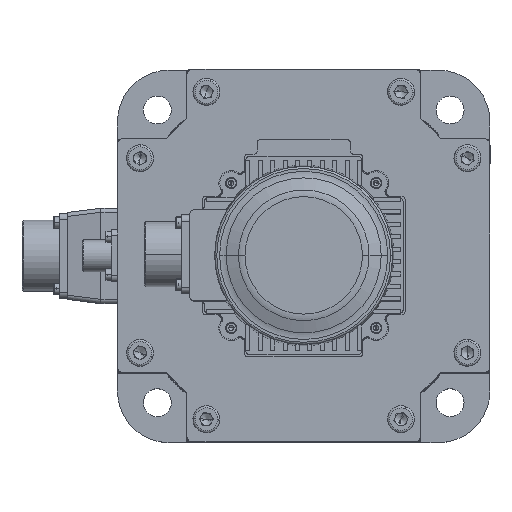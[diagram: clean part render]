
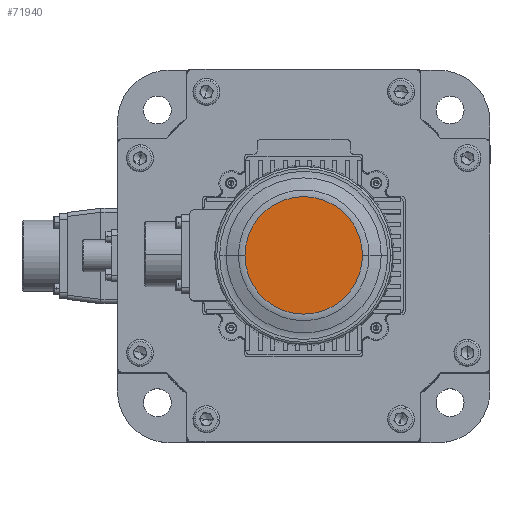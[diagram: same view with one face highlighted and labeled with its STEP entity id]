
A CAD part, top view. The second image highlights one B-rep face of the part: STEP entity #71940.
In plain terms, the highlighted planar face has unit normal (0, 0, 1) as drawn and (0, 0, -1) by its records, which use the part's own axes.
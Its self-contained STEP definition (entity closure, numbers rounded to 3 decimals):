
#1309 = DIRECTION ( 'NONE',  ( 1., 0., 0. ) ) ;
#1753 = VERTEX_POINT ( 'NONE', #14281 ) ;
#3222 = EDGE_LOOP ( 'NONE', ( #44495, #60646 ) ) ;
#5616 = VERTEX_POINT ( 'NONE', #17589 ) ;
#6123 = CARTESIAN_POINT ( 'NONE',  ( 0., 0., 48.762 ) ) ;
#7477 = AXIS2_PLACEMENT_3D ( 'NONE', #6123, #53115, #12915 ) ;
#7737 = PLANE ( 'NONE',  #16037 ) ;
#9337 = FACE_OUTER_BOUND ( 'NONE', #3222, .T. ) ;
#12915 = DIRECTION ( 'NONE',  ( 1., 0., 0. ) ) ;
#14281 = CARTESIAN_POINT ( 'NONE',  ( 28.377, 0., 48.762 ) ) ;
#16037 = AXIS2_PLACEMENT_3D ( 'NONE', #28059, #41532, #1309 ) ;
#17589 = CARTESIAN_POINT ( 'NONE',  ( -28.377, 0., 48.762 ) ) ;
#27621 = DIRECTION ( 'NONE',  ( 0., 0., 1. ) ) ;
#28059 = CARTESIAN_POINT ( 'NONE',  ( 0., 28.377, 48.762 ) ) ;
#41532 = DIRECTION ( 'NONE',  ( 0., 0., 1. ) ) ;
#44495 = ORIENTED_EDGE ( 'NONE', *, *, #86826, .F. ) ;
#53115 = DIRECTION ( 'NONE',  ( 0., 0., 1. ) ) ;
#60646 = ORIENTED_EDGE ( 'NONE', *, *, #67420, .F. ) ;
#67420 = EDGE_CURVE ( 'NONE', #5616, #1753, #74224, .T. ) ;
#67704 = CARTESIAN_POINT ( 'NONE',  ( 0., 0., 48.762 ) ) ;
#68331 = CIRCLE ( 'NONE', #7477, 28.377 ) ;
#70183 = AXIS2_PLACEMENT_3D ( 'NONE', #67704, #27621, #74424 ) ;
#71940 = ADVANCED_FACE ( 'NONE', ( #9337 ), #7737, .F. ) ;
#74224 = CIRCLE ( 'NONE', #70183, 28.377 ) ;
#74424 = DIRECTION ( 'NONE',  ( 1., 0., 0. ) ) ;
#86826 = EDGE_CURVE ( 'NONE', #1753, #5616, #68331, .T. ) ;
